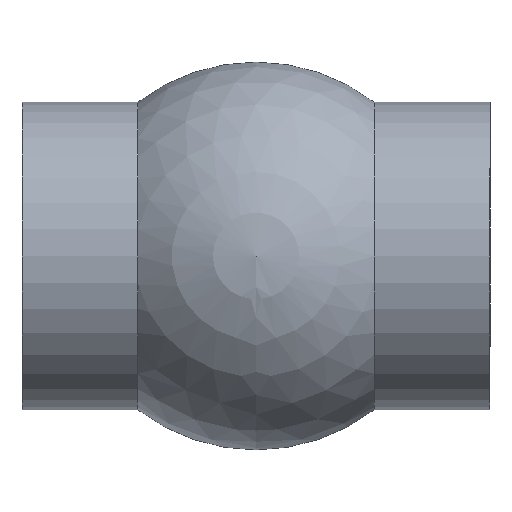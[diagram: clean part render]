
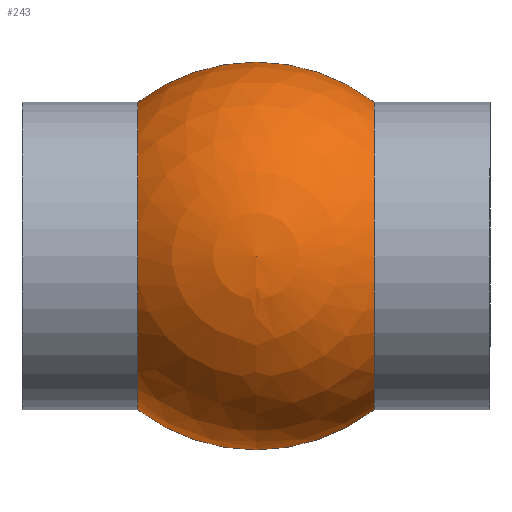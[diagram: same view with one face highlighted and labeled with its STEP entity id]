
A CAD part, left-side view. The second image highlights one B-rep face of the part: STEP entity #243.
In plain terms, the highlighted spherical face has radius 2.9 mm.
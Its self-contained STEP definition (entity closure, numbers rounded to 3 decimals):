
#2 = CIRCLE ( 'NONE', #287, 2.9 ) ;
#8 = CARTESIAN_POINT ( 'NONE',  ( 0., -1.766, -2.3 ) ) ;
#28 = DIRECTION ( 'NONE',  ( 0., 0., -1. ) ) ;
#41 = EDGE_CURVE ( 'NONE', #75, #69, #238, .T. ) ;
#52 = DIRECTION ( 'NONE',  ( 0., 0., -1. ) ) ;
#62 = FACE_OUTER_BOUND ( 'NONE', #103, .T. ) ;
#69 = VERTEX_POINT ( 'NONE', #8 ) ;
#70 = DIRECTION ( 'NONE',  ( 0., 0., -1. ) ) ;
#74 = DIRECTION ( 'NONE',  ( 1., 0., 0. ) ) ;
#75 = VERTEX_POINT ( 'NONE', #137 ) ;
#87 = EDGE_CURVE ( 'NONE', #251, #69, #122, .T. ) ;
#94 = DIRECTION ( 'NONE',  ( 0., 0., -1. ) ) ;
#95 = AXIS2_PLACEMENT_3D ( 'NONE', #224, #173, #70 ) ;
#97 = CARTESIAN_POINT ( 'NONE',  ( 0., 1.766, -2.3 ) ) ;
#100 = ORIENTED_EDGE ( 'NONE', *, *, #87, .T. ) ;
#103 = EDGE_LOOP ( 'NONE', ( #150, #299, #100, #166 ) ) ;
#105 = AXIS2_PLACEMENT_3D ( 'NONE', #206, #233, #108 ) ;
#108 = DIRECTION ( 'NONE',  ( 0., 0., 1. ) ) ;
#112 = DIRECTION ( 'NONE',  ( 1., 0., 0. ) ) ;
#118 = CARTESIAN_POINT ( 'NONE',  ( 0., 0., 0. ) ) ;
#122 = CIRCLE ( 'NONE', #105, 2.9 ) ;
#137 = CARTESIAN_POINT ( 'NONE',  ( 0., -1.766, 2.3 ) ) ;
#150 = ORIENTED_EDGE ( 'NONE', *, *, #185, .F. ) ;
#156 = CARTESIAN_POINT ( 'NONE',  ( 0., 1.766, 0. ) ) ;
#158 = DIRECTION ( 'NONE',  ( 0., -1., 0. ) ) ;
#166 = ORIENTED_EDGE ( 'NONE', *, *, #41, .F. ) ;
#173 = DIRECTION ( 'NONE',  ( 0., -1., 0. ) ) ;
#177 = EDGE_CURVE ( 'NONE', #248, #251, #246, .T. ) ;
#185 = EDGE_CURVE ( 'NONE', #248, #75, #2, .T. ) ;
#206 = CARTESIAN_POINT ( 'NONE',  ( 0., 0., 0. ) ) ;
#224 = CARTESIAN_POINT ( 'NONE',  ( 0., -1.766, 0. ) ) ;
#233 = DIRECTION ( 'NONE',  ( -1., 0., 0. ) ) ;
#238 = CIRCLE ( 'NONE', #95, 2.3 ) ;
#241 = CARTESIAN_POINT ( 'NONE',  ( 0., 1.766, 2.3 ) ) ;
#243 = ADVANCED_FACE ( 'NONE', ( #62 ), #277, .T. ) ;
#246 = CIRCLE ( 'NONE', #273, 2.3 ) ;
#247 = AXIS2_PLACEMENT_3D ( 'NONE', #118, #112, #94 ) ;
#248 = VERTEX_POINT ( 'NONE', #241 ) ;
#251 = VERTEX_POINT ( 'NONE', #97 ) ;
#273 = AXIS2_PLACEMENT_3D ( 'NONE', #156, #158, #52 ) ;
#277 = SPHERICAL_SURFACE ( 'NONE', #247, 2.9 ) ;
#287 = AXIS2_PLACEMENT_3D ( 'NONE', #307, #74, #28 ) ;
#299 = ORIENTED_EDGE ( 'NONE', *, *, #177, .T. ) ;
#307 = CARTESIAN_POINT ( 'NONE',  ( 0., 0., 0. ) ) ;
